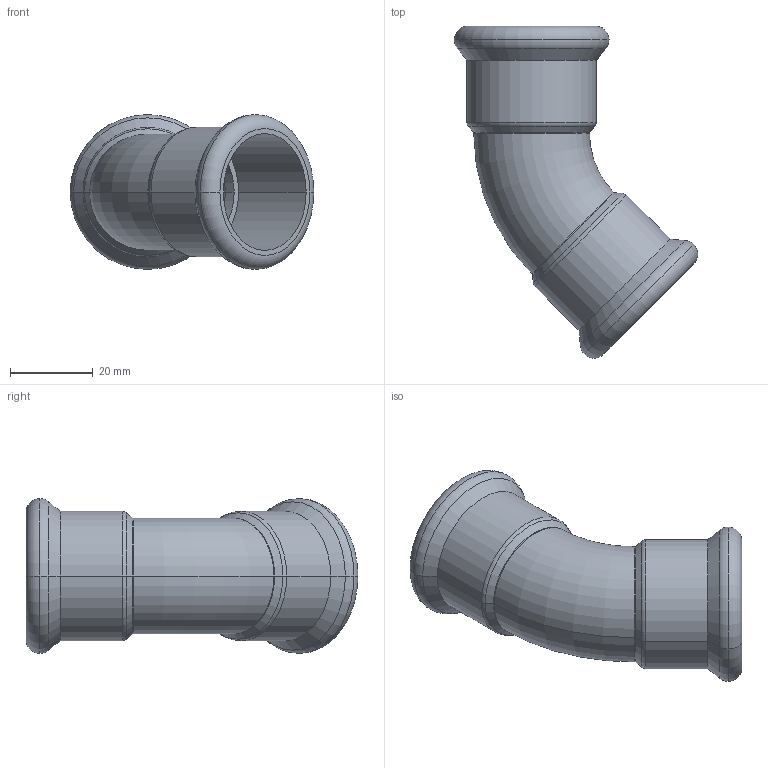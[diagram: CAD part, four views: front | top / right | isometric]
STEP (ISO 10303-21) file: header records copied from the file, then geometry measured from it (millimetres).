
FILE_DESCRIPTION(('CoCreate Modeling STEP Export'),'2;1');
FILE_NAME('C1413 28x28.stp','2014-11-11T16:49:02',(''),(''),'CoCreate Modeling STEP processor for AP214 (Solid Model)','CoCreate Modeling 17.00A 17-Jun-2010 (C) Parametric Technology GmbH','');
FILE_SCHEMA(('AUTOMOTIVE_DESIGN { 1 0 10303 214 1 1 1 1 }'));
Length unit declared in the file: millimetre
Products named in the file (2): C1413_28x28
Assembly tree (1 placements, depth 2):
  C1413_28x28
    C1413_28x28
Bounding box: 58.92 x 80.29 x 37.45 mm (x, y, z)
Volume: 14713.9 mm3; surface area: 15717.8 mm2
Topology: 1 solids, 1 shells, 50 faces, 104 edges, 60 vertices
Faces by surface type: cylinder 20, torus 16, cone 8, plane 6
Entity records: 1119 total; most frequent: ORIENTED_EDGE 208, DIRECTION 176, CARTESIAN_POINT 162, EDGE_CURVE 104, AXIS2_PLACEMENT_3D 74, VERTEX_POINT 60, EDGE_LOOP 56, FACE_OUTER_BOUND 50
